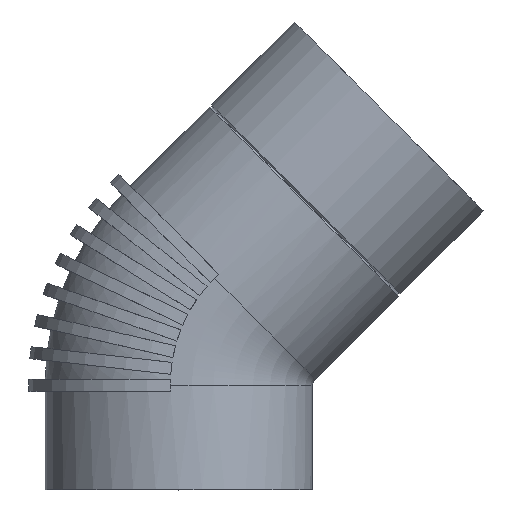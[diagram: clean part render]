
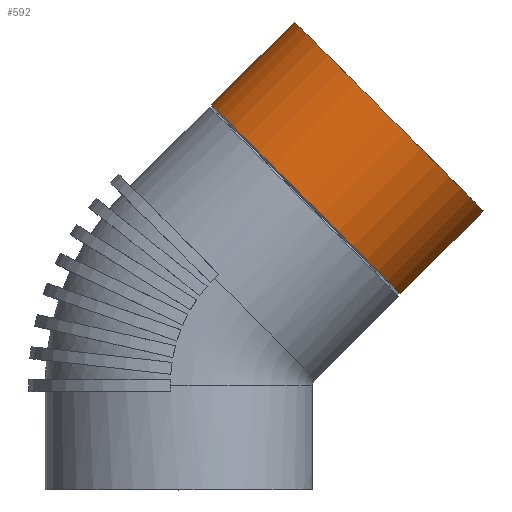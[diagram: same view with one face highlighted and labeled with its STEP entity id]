
A CAD part, top view. The second image highlights one B-rep face of the part: STEP entity #592.
In plain terms, the highlighted cylindrical face has radius 45 mm (diameter 90 mm), a full revolution.
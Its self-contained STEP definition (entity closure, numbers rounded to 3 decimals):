
#96=CYLINDRICAL_SURFACE($,#659,45.);
#114=FACE_BOUND($,#200,.T.);
#148=FACE_OUTER_BOUND($,#199,.T.);
#199=EDGE_LOOP($,(#518));
#200=EDGE_LOOP($,(#519));
#202=CIRCLE($,#598,45.);
#229=CIRCLE($,#658,45.);
#231=VERTEX_POINT($,#798);
#288=VERTEX_POINT($,#1503);
#290=EDGE_CURVE($,#231,#231,#202,.T.);
#365=EDGE_CURVE($,#288,#288,#229,.T.);
#518=ORIENTED_EDGE($,*,*,#290,.T.);
#519=ORIENTED_EDGE($,*,*,#365,.T.);
#592=ADVANCED_FACE($,(#148,#114),#96,.T.);
#598=AXIS2_PLACEMENT_3D($,#799,#666,#667);
#658=AXIS2_PLACEMENT_3D($,#1504,#790,#791);
#659=AXIS2_PLACEMENT_3D($,#1505,#792,#793);
#666=DIRECTION('center_axis',(0.707,0.707,0.));
#667=DIRECTION('ref_axis',(0.707,-0.707,0.));
#790=DIRECTION('center_axis',(-0.707,-0.707,0.));
#791=DIRECTION('ref_axis',(0.707,-0.707,0.));
#792=DIRECTION('center_axis',(-0.707,-0.707,0.));
#793=DIRECTION('ref_axis',(0.707,-0.707,0.));
#798=CARTESIAN_POINT('',(74.614,65.974,0.));
#799=CARTESIAN_POINT('Origin',(42.794,97.794,0.));
#1503=CARTESIAN_POINT('',(102.53,93.891,0.));
#1504=CARTESIAN_POINT('Origin',(70.711,125.711,0.));
#1505=CARTESIAN_POINT('Origin',(42.385,97.385,0.));
